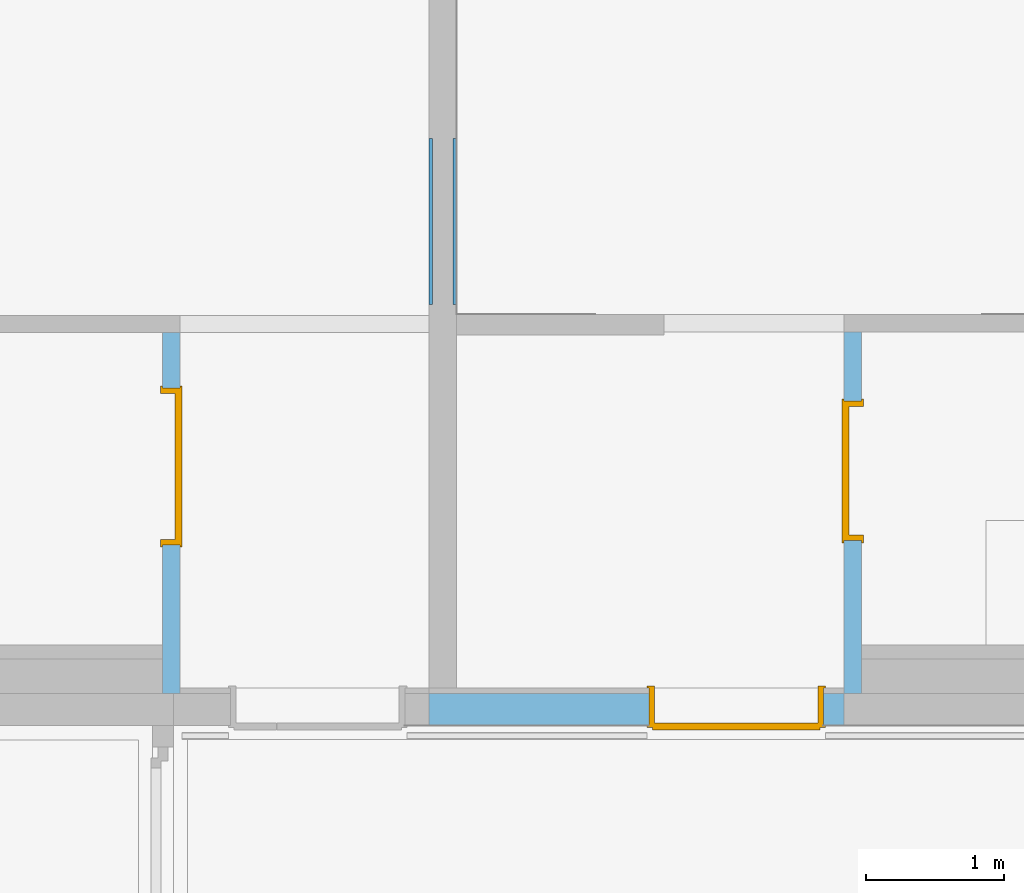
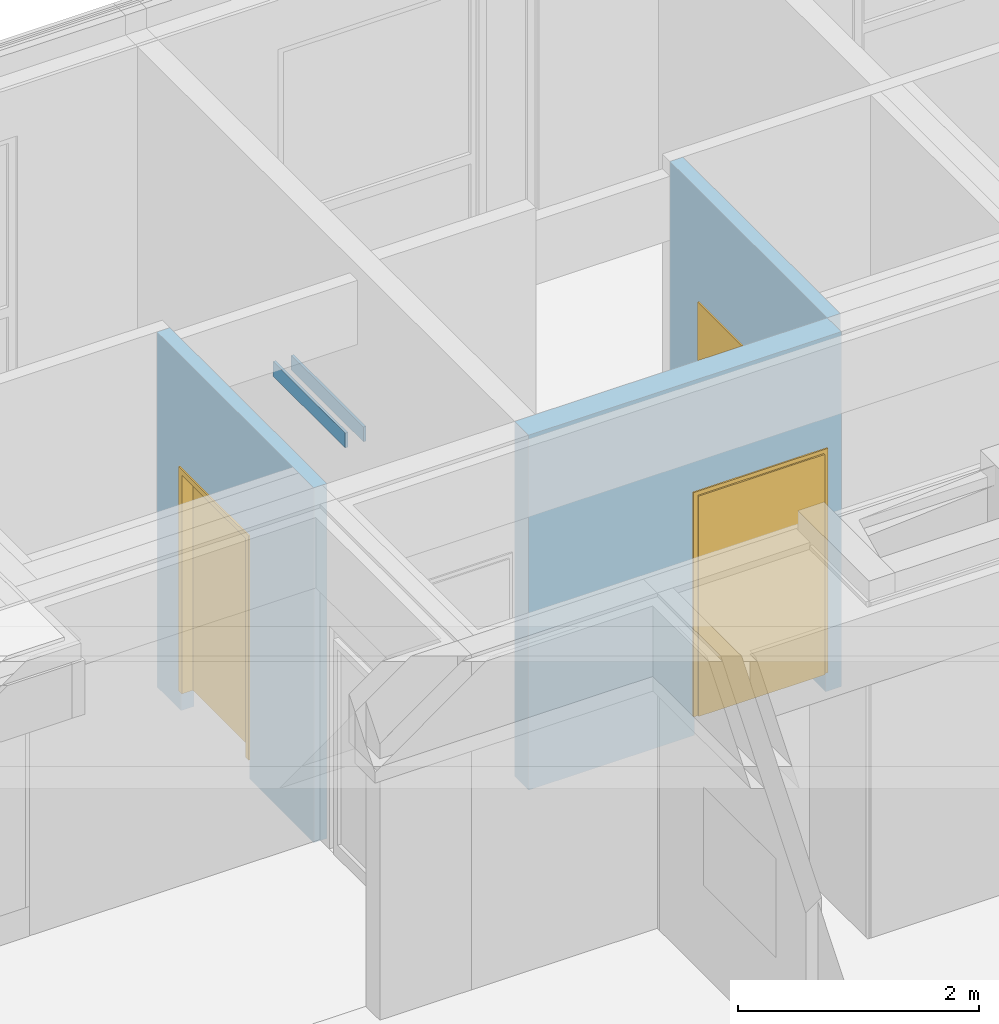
# One storey, part 146 of 207: 3 doors, 2 walls, 3 openings, plus 3 elements that do not belong to this part.
"""IFC4 building model written with IfcOpenShell, lengths in metres."""

from ifc_helpers import new_model, entity, si_unit, converted_unit, derived_unit, frame, frame_2d, origin, origin_with_axes, place, context, subcontext, project, spatial, polyline, rectangle, outline, extrude, faceted_brep, source, transform, mapped, material, type_object, element, fill, save


model = new_model("IFC4")

# Units and contexts
model_context = context("Model", 3, precision=1e-05, world=origin())
body_context = subcontext(model_context, "Body", "Model", "MODEL_VIEW")
ifc_project = project(units=[si_unit("LENGTHUNIT", "METRE"), si_unit("AREAUNIT", "SQUARE_METRE"), si_unit("VOLUMEUNIT", "CUBIC_METRE"), si_unit("MASSUNIT", "GRAM", prefix="KILO"), converted_unit("PLANEANGLEUNIT", "DEGREE", entity("IfcPlaneAngleMeasure", 0.0174532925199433), si_unit("PLANEANGLEUNIT", "RADIAN"), dimensions=[0, 0, 0, 0, 0, 0, 0]), derived_unit("THERMALTRANSMITTANCEUNIT", [(si_unit("POWERUNIT", "WATT"), 1), (si_unit("THERMODYNAMICTEMPERATUREUNIT", "KELVIN"), -1), (si_unit("LENGTHUNIT", "METRE"), -2)]), derived_unit("VOLUMETRICFLOWRATEUNIT", [(si_unit("LENGTHUNIT", "METRE"), 3), (converted_unit("TIMEUNIT", "hour", entity("IfcTimeMeasure", 3600.0), si_unit("TIMEUNIT", "SECOND"), dimensions=[0, 0, 1, 0, 0, 0, 0]), -1), (si_unit("LENGTHUNIT", "METRE"), -1)])], contexts=[model_context])

# Site, building, storey
site_placement = place(None, origin())
site = spatial("IfcSite", under=ifc_project, at=site_placement, Name="Psychiatrie Neubau Wunstorf", CompositionType="ELEMENT")
building_placement = place(site_placement, origin())
building = spatial("IfcBuilding", under=site, at=building_placement, Name="Neubau H2 Stationsgebäude", CompositionType="ELEMENT")
storey_placement = place(building_placement, frame((0.0, 0.0, -0.2)))
storey = spatial("IfcBuildingStorey", under=building, at=storey_placement, Name="H2 Ebene 0", CompositionType="ELEMENT", Elevation=-0.2)

# Walls
for number, where, name in (
    (1, (75.9, 28.1628000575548, 1.625), "WV 1.1"),
    (2, (76.075, 28.1628, 1.625), "WV 1.1"),
):
    element("IfcWall", number, at=place(storey_placement, frame(where)), inside=storey, Name=name, context=body_context, shape_type="Brep", body=[
        faceted_brep([(0.025, 1.2, 0.0), (0.0, 1.2, 0.0), (0.0, 0.0, 0.0), (0.025, 0.0, 0.0), (0.0, 1.2, 0.15), (0.025, 1.2, 0.15), (0.025, 0.0, 0.15), (0.0, 0.0, 0.15)], [[[0, 1, 2, 3]], [[4, 5, 6, 7]], [[1, 0, 5, 4]], [[2, 1, 4, 7]], [[3, 2, 7, 6]], [[0, 3, 6, 5]]], orient=[[False], [False], [False], [False], [False], [False]]),
    ])

# Wall, opening, door
ifc_material_1 = material(Name="WI-LB")
wall_1_placement = place(storey_placement, frame((73.975, 27.9575, 0.0), z_axis=(0.0, 0.0, 1.0), x_axis=(0.0, -1.0, 0.0)))
wall_1 = element("IfcWall", 3, at=wall_1_placement, inside=storey, material=ifc_material_1, context=body_context, shape_type="SweptSolid", body=[
    extrude(rectangle(XDim=2.60799999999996, YDim=0.125, at=frame_2d((1.30399999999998, 0.0625), x_axis=(1.0, 0.0))), origin_with_axes(), (0.0, 0.0, 1.0), 3.6),
])
opening_1_placement = place(wall_1_placement, frame((0.4, 0.0, 0.0), z_axis=(0.0, 1.0, 0.0), x_axis=(0.0, 0.0, 1.0)))
opening_1 = element("IfcOpeningElement", 4, at=opening_1_placement, cuts=wall_1, Name="Türöffnung", ObjectType="Opening", context=body_context, shape_type="SweptSolid", body=[
    extrude(outline(polyline([(2.46, 1.135), (2.46, 0.0), (0.0, 0.0), (0.0, 1.135), (2.46, 1.135)])), origin_with_axes(), (0.0, 0.0, 1.0), 0.125),
])
ifc_material_2 = material(Name="TI-1F-UZ-D-N")
door_type_1 = type_object("IfcDoorType", Name="SMT", OperationType="SINGLE_SWING_RIGHT", ParameterTakesPrecedence=False, PredefinedType="DOOR")
shared_shape_1 = source(origin_with_axes(), body_context, "Body", "Brep", [
    faceted_brep([(-0.0499999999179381, 0.0125000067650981, 0.0), (0.0, 0.0125000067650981, 0.0), (0.0, 0.112499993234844, 0.0), (-0.0499999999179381, 0.112499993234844, 0.0), (-0.0499999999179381, 0.112499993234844, 3.6), (0.0, 0.112499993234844, 3.6), (0.0, 0.0125000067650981, 3.6), (-0.0499999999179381, 0.0125000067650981, 3.6)], [[[0, 1, 2, 3]], [[4, 5, 6, 7]], [[3, 4, 7, 0]], [[2, 5, 4, 3]], [[1, 6, 5, 2]], [[0, 7, 6, 1]]], orient=[[False], [False], [False], [False], [False], [False]]),
    faceted_brep([(1.13500000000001, 0.0125000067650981, 0.0), (1.18499999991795, 0.0125000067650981, 0.0), (1.18499999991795, 0.112499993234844, 0.0), (1.13500000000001, 0.112499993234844, 0.0), (1.13500000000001, 0.112499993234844, 3.6), (1.18499999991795, 0.112499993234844, 3.6), (1.18499999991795, 0.0125000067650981, 3.6), (1.13500000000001, 0.0125000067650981, 3.6)], [[[0, 1, 2, 3]], [[4, 5, 6, 7]], [[3, 4, 7, 0]], [[2, 5, 4, 3]], [[1, 6, 5, 2]], [[0, 7, 6, 1]]], orient=[[False], [False], [False], [False], [False], [False]]),
    faceted_brep([(0.0, 0.0125000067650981, 2.46), (1.13500000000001, 0.0125000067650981, 2.46), (1.13500000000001, 0.112499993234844, 2.46), (0.0, 0.112499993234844, 2.46), (0.0, 0.112499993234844, 2.51), (1.13500000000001, 0.112499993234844, 2.51), (1.13500000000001, 0.0125000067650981, 2.51), (0.0, 0.0125000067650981, 2.51)], [[[0, 1, 2, 3]], [[4, 5, 6, 7]], [[3, 4, 7, 0]], [[2, 5, 4, 3]], [[1, 6, 5, 2]], [[0, 7, 6, 1]]], orient=[[False], [False], [False], [False], [False], [False]]),
])
shared_shape_2 = source(origin_with_axes(), body_context, "Body", "Brep", [
    faceted_brep([(1.13500000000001, -0.0150000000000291, 2.46), (1.13500000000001, -0.0150000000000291, 0.2), (1.09500000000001, -0.0150000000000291, 0.2), (1.09500000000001, -0.0150000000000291, 2.46), (1.13500000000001, 0.139999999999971, 0.2), (1.13500000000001, 0.139999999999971, 2.46), (1.09500000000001, 0.139999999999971, 2.46), (1.09500000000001, 0.139999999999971, 0.2)], [[[0, 1, 2, 3]], [[4, 5, 6, 7]], [[1, 0, 5, 4]], [[2, 1, 4, 7]], [[3, 2, 7, 6]], [[0, 3, 6, 5]]], orient=[[False], [False], [False], [False], [False], [False]]),
    faceted_brep([(1.13500000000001, -0.0150000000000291, 2.475), (1.15000000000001, -0.0150000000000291, 2.475), (1.15000000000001, -0.0150000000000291, 0.2), (1.13500000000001, -0.0150000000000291, 0.2), (1.13500000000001, 0.0, 0.2), (1.15000000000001, 0.0, 0.2), (1.15000000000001, 0.0, 2.475), (1.13500000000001, 0.0, 2.475)], [[[0, 1, 2, 3]], [[4, 5, 6, 7]], [[3, 4, 7, 0]], [[2, 5, 4, 3]], [[1, 6, 5, 2]], [[0, 7, 6, 1]]], orient=[[False], [False], [False], [False], [False], [False]]),
    faceted_brep([(1.13500000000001, 0.124999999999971, 2.475), (1.15000000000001, 0.124999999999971, 2.475), (1.15000000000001, 0.124999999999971, 0.2), (1.13500000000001, 0.124999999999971, 0.2), (1.13500000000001, 0.139999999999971, 0.2), (1.15000000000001, 0.139999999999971, 0.2), (1.15000000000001, 0.139999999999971, 2.475), (1.13500000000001, 0.139999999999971, 2.475)], [[[0, 1, 2, 3]], [[4, 5, 6, 7]], [[3, 4, 7, 0]], [[2, 5, 4, 3]], [[1, 6, 5, 2]], [[0, 7, 6, 1]]], orient=[[False], [False], [False], [False], [False], [False]]),
    faceted_brep([(0.0400000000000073, -0.0150000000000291, 2.46), (0.0400000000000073, -0.0150000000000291, 0.2), (0.0, -0.0150000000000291, 0.2), (0.0, -0.0150000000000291, 2.46), (0.0400000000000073, 0.139999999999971, 0.2), (0.0400000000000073, 0.139999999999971, 2.46), (0.0, 0.139999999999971, 2.46), (0.0, 0.139999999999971, 0.2)], [[[0, 1, 2, 3]], [[4, 5, 6, 7]], [[1, 0, 5, 4]], [[2, 1, 4, 7]], [[3, 2, 7, 6]], [[0, 3, 6, 5]]], orient=[[False], [False], [False], [False], [False], [False]]),
    faceted_brep([(0.0, -0.0150000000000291, 2.475), (0.0, -0.0150000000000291, 0.2), (-0.0149999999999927, -0.0150000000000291, 0.2), (-0.0149999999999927, -0.0150000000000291, 2.475), (0.0, 0.0, 0.2), (0.0, 0.0, 2.475), (-0.0149999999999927, 0.0, 2.475), (-0.0149999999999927, 0.0, 0.2)], [[[0, 1, 2, 3]], [[4, 5, 6, 7]], [[1, 0, 5, 4]], [[2, 1, 4, 7]], [[3, 2, 7, 6]], [[0, 3, 6, 5]]], orient=[[False], [False], [False], [False], [False], [False]]),
    faceted_brep([(0.0, 0.124999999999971, 2.475), (0.0, 0.124999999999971, 0.2), (-0.0149999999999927, 0.124999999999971, 0.2), (-0.0149999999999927, 0.124999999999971, 2.475), (0.0, 0.139999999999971, 0.2), (0.0, 0.139999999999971, 2.475), (-0.0149999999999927, 0.139999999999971, 2.475), (-0.0149999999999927, 0.139999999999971, 0.2)], [[[0, 1, 2, 3]], [[4, 5, 6, 7]], [[1, 0, 5, 4]], [[2, 1, 4, 7]], [[3, 2, 7, 6]], [[0, 3, 6, 5]]], orient=[[False], [False], [False], [False], [False], [False]]),
    faceted_brep([(1.09500000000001, -0.0150000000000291, 2.46), (1.09500000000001, -0.0150000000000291, 2.42), (0.0400000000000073, -0.0150000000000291, 2.42), (0.0400000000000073, -0.0150000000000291, 2.46), (1.09500000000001, 0.139999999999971, 2.42), (1.09500000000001, 0.139999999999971, 2.46), (0.0400000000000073, 0.139999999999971, 2.46), (0.0400000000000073, 0.139999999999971, 2.42)], [[[0, 1, 2, 3]], [[4, 5, 6, 7]], [[1, 0, 5, 4]], [[2, 1, 4, 7]], [[3, 2, 7, 6]], [[0, 3, 6, 5]]], orient=[[False], [False], [False], [False], [False], [False]]),
    faceted_brep([(1.13500000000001, -0.0150000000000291, 2.475), (1.13500000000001, -0.0150000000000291, 2.46), (0.0, -0.0150000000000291, 2.46), (0.0, -0.0150000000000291, 2.475), (1.13500000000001, 0.0, 2.46), (1.13500000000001, 0.0, 2.475), (0.0, 0.0, 2.475), (0.0, 0.0, 2.46)], [[[0, 1, 2, 3]], [[4, 5, 6, 7]], [[1, 0, 5, 4]], [[2, 1, 4, 7]], [[3, 2, 7, 6]], [[0, 3, 6, 5]]], orient=[[False], [False], [False], [False], [False], [False]]),
    faceted_brep([(1.13500000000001, 0.124999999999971, 2.475), (1.13500000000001, 0.124999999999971, 2.46), (0.0, 0.124999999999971, 2.46), (0.0, 0.124999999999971, 2.475), (1.13500000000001, 0.139999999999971, 2.46), (1.13500000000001, 0.139999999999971, 2.475), (0.0, 0.139999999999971, 2.475), (0.0, 0.139999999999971, 2.46)], [[[0, 1, 2, 3]], [[4, 5, 6, 7]], [[1, 0, 5, 4]], [[2, 1, 4, 7]], [[3, 2, 7, 6]], [[0, 3, 6, 5]]], orient=[[False], [False], [False], [False], [False], [False]]),
    faceted_brep([(1.11000000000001, 0.0909999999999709, 2.435), (1.11000000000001, 0.0909999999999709, 0.2), (0.0250000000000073, 0.0909999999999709, 0.2), (0.0250000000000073, 0.0909999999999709, 2.435), (1.11000000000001, 0.140999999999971, 0.2), (1.11000000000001, 0.140999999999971, 2.435), (0.0250000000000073, 0.140999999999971, 2.435), (0.0250000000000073, 0.140999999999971, 0.2)], [[[0, 1, 2, 3]], [[4, 5, 6, 7]], [[1, 0, 5, 4]], [[2, 1, 4, 7]], [[3, 2, 7, 6]], [[0, 3, 6, 5]]], orient=[[False], [False], [False], [False], [False], [False]]),
])
door_1_placement = place(opening_1_placement, frame((0.0, 0.0, 0.0), z_axis=(1.0, 0.0, 0.0), x_axis=(0.0, 1.0, 0.0)))
door_1 = element("IfcDoor", 5, at=door_1_placement, inside=storey, type_object=door_type_1, material=ifc_material_2, Name="SMT", OverallHeight=2.46, OverallWidth=1.135, context=body_context, shape_type="MappedRepresentation", body=[
    mapped(shared_shape_1, transform((0.0, 0.0, 0.0), x_axis=(1.0, 0.0, 0.0), y_axis=(0.0, 1.0, 0.0), z_axis=(0.0, 0.0, 1.0), scale=1.0)),
    mapped(shared_shape_2, transform((0.0, 0.0, 0.0), x_axis=(1.0, 0.0, 0.0), y_axis=(0.0, 1.0, 0.0), z_axis=(0.0, 0.0, 1.0), scale=1.0)),
])
fill(opening_1, door_1)

ifc_material_3 = material(Name="WI-LB")
wall_2_placement = place(storey_placement, frame((78.9, 27.9645, 0.0), z_axis=(0.0, 0.0, 1.0), x_axis=(0.0, -1.0, 0.0)))
wall_2 = element("IfcWall", 6, at=wall_2_placement, inside=storey, material=ifc_material_3, context=body_context, shape_type="SweptSolid", body=[
    extrude(rectangle(XDim=2.615, YDim=0.125, at=frame_2d((1.3075, 0.0625), x_axis=(1.0, 0.0))), origin_with_axes(), (0.0, 0.0, 1.0), 3.6),
])
opening_2_placement = place(wall_2_placement, frame((1.51, 0.125, 0.0), z_axis=(0.0, -1.0, 0.0), x_axis=(0.0, 0.0, 1.0)))
opening_2 = element("IfcOpeningElement", 7, at=opening_2_placement, cuts=wall_2, Name="Türöffnung", ObjectType="Opening", context=body_context, shape_type="SweptSolid", body=[
    extrude(outline(polyline([(2.46, 1.01), (2.46, 0.0), (0.0, 0.0), (0.0, 1.01), (2.46, 1.01)])), origin_with_axes(), (0.0, 0.0, 1.0), 0.125),
])
ifc_material_4 = material(Name="TI-1F-UZ-D-N")
door_type_2 = type_object("IfcDoorType", Name="SMT", OperationType="SINGLE_SWING_RIGHT", ParameterTakesPrecedence=False, PredefinedType="DOOR")
shared_shape_3 = source(origin_with_axes(), body_context, "Body", "Brep", [
    faceted_brep([(-0.0400000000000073, 0.0125000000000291, 0.0), (0.0, 0.0125000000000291, 0.0), (0.0, 0.112500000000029, 0.0), (-0.0400000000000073, 0.112500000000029, 0.0), (-0.0400000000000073, 0.112500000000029, 3.6), (0.0, 0.112500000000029, 3.6), (0.0, 0.0125000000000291, 3.6), (-0.0400000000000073, 0.0125000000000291, 3.6)], [[[0, 1, 2, 3]], [[4, 5, 6, 7]], [[3, 4, 7, 0]], [[2, 5, 4, 3]], [[1, 6, 5, 2]], [[0, 7, 6, 1]]], orient=[[False], [False], [False], [False], [False], [False]]),
    faceted_brep([(1.00999999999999, 0.0125000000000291, 0.0), (1.04999999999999, 0.0125000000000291, 0.0), (1.04999999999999, 0.112500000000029, 0.0), (1.00999999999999, 0.112500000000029, 0.0), (1.00999999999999, 0.112500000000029, 3.6), (1.04999999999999, 0.112500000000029, 3.6), (1.04999999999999, 0.0125000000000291, 3.6), (1.00999999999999, 0.0125000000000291, 3.6)], [[[0, 1, 2, 3]], [[4, 5, 6, 7]], [[3, 4, 7, 0]], [[2, 5, 4, 3]], [[1, 6, 5, 2]], [[0, 7, 6, 1]]], orient=[[False], [False], [False], [False], [False], [False]]),
    faceted_brep([(0.0, 0.0125000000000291, 2.46), (1.00999999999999, 0.0125000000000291, 2.46), (1.00999999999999, 0.112500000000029, 2.46), (0.0, 0.112500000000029, 2.46), (0.0, 0.112500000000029, 2.5), (1.00999999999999, 0.112500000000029, 2.5), (1.00999999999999, 0.0125000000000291, 2.5), (0.0, 0.0125000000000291, 2.5)], [[[0, 1, 2, 3]], [[4, 5, 6, 7]], [[3, 4, 7, 0]], [[2, 5, 4, 3]], [[1, 6, 5, 2]], [[0, 7, 6, 1]]], orient=[[False], [False], [False], [False], [False], [False]]),
])
shared_shape_4 = source(origin_with_axes(), body_context, "Body", "Brep", [
    faceted_brep([(0.0, -0.0149999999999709, 2.46), (0.0399999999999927, -0.0149999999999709, 2.46), (0.0399999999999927, -0.0149999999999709, 0.2), (0.0, -0.0149999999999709, 0.2), (0.0, 0.140000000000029, 0.2), (0.0399999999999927, 0.140000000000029, 0.2), (0.0399999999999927, 0.140000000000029, 2.46), (0.0, 0.140000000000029, 2.46)], [[[0, 1, 2, 3]], [[4, 5, 6, 7]], [[3, 4, 7, 0]], [[2, 5, 4, 3]], [[1, 6, 5, 2]], [[0, 7, 6, 1]]], orient=[[False], [False], [False], [False], [False], [False]]),
    faceted_brep([(0.0, -0.0149999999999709, 2.475), (0.0, -0.0149999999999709, 0.2), (-0.0150000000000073, -0.0149999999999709, 0.2), (-0.0150000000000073, -0.0149999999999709, 2.475), (0.0, 0.0, 0.2), (0.0, 0.0, 2.475), (-0.0150000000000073, 0.0, 2.475), (-0.0150000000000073, 0.0, 0.2)], [[[0, 1, 2, 3]], [[4, 5, 6, 7]], [[1, 0, 5, 4]], [[2, 1, 4, 7]], [[3, 2, 7, 6]], [[0, 3, 6, 5]]], orient=[[False], [False], [False], [False], [False], [False]]),
    faceted_brep([(0.0, 0.125000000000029, 2.475), (0.0, 0.125000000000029, 0.2), (-0.0150000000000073, 0.125000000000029, 0.2), (-0.0150000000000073, 0.125000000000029, 2.475), (0.0, 0.140000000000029, 0.2), (0.0, 0.140000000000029, 2.475), (-0.0150000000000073, 0.140000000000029, 2.475), (-0.0150000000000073, 0.140000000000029, 0.2)], [[[0, 1, 2, 3]], [[4, 5, 6, 7]], [[1, 0, 5, 4]], [[2, 1, 4, 7]], [[3, 2, 7, 6]], [[0, 3, 6, 5]]], orient=[[False], [False], [False], [False], [False], [False]]),
    faceted_brep([(0.969999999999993, -0.0149999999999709, 2.46), (1.00999999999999, -0.0149999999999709, 2.46), (1.00999999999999, -0.0149999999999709, 0.2), (0.969999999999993, -0.0149999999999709, 0.2), (0.969999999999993, 0.140000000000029, 0.2), (1.00999999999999, 0.140000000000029, 0.2), (1.00999999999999, 0.140000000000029, 2.46), (0.969999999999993, 0.140000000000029, 2.46)], [[[0, 1, 2, 3]], [[4, 5, 6, 7]], [[3, 4, 7, 0]], [[2, 5, 4, 3]], [[1, 6, 5, 2]], [[0, 7, 6, 1]]], orient=[[False], [False], [False], [False], [False], [False]]),
    faceted_brep([(1.00999999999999, -0.0149999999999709, 2.475), (1.02499999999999, -0.0149999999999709, 2.475), (1.02499999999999, -0.0149999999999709, 0.2), (1.00999999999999, -0.0149999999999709, 0.2), (1.00999999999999, 0.0, 0.2), (1.02499999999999, 0.0, 0.2), (1.02499999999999, 0.0, 2.475), (1.00999999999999, 0.0, 2.475)], [[[0, 1, 2, 3]], [[4, 5, 6, 7]], [[3, 4, 7, 0]], [[2, 5, 4, 3]], [[1, 6, 5, 2]], [[0, 7, 6, 1]]], orient=[[False], [False], [False], [False], [False], [False]]),
    faceted_brep([(1.00999999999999, 0.125000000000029, 2.475), (1.02499999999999, 0.125000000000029, 2.475), (1.02499999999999, 0.125000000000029, 0.2), (1.00999999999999, 0.125000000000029, 0.2), (1.00999999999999, 0.140000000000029, 0.2), (1.02499999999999, 0.140000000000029, 0.2), (1.02499999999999, 0.140000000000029, 2.475), (1.00999999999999, 0.140000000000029, 2.475)], [[[0, 1, 2, 3]], [[4, 5, 6, 7]], [[3, 4, 7, 0]], [[2, 5, 4, 3]], [[1, 6, 5, 2]], [[0, 7, 6, 1]]], orient=[[False], [False], [False], [False], [False], [False]]),
    faceted_brep([(0.0399999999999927, -0.0149999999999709, 2.46), (0.969999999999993, -0.0149999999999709, 2.46), (0.969999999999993, -0.0149999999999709, 2.42), (0.0399999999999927, -0.0149999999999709, 2.42), (0.0399999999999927, 0.140000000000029, 2.42), (0.969999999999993, 0.140000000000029, 2.42), (0.969999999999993, 0.140000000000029, 2.46), (0.0399999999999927, 0.140000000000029, 2.46)], [[[0, 1, 2, 3]], [[4, 5, 6, 7]], [[3, 4, 7, 0]], [[2, 5, 4, 3]], [[1, 6, 5, 2]], [[0, 7, 6, 1]]], orient=[[False], [False], [False], [False], [False], [False]]),
    faceted_brep([(0.0, -0.0149999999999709, 2.475), (1.00999999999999, -0.0149999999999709, 2.475), (1.00999999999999, -0.0149999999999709, 2.46), (0.0, -0.0149999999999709, 2.46), (0.0, 0.0, 2.46), (1.00999999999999, 0.0, 2.46), (1.00999999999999, 0.0, 2.475), (0.0, 0.0, 2.475)], [[[0, 1, 2, 3]], [[4, 5, 6, 7]], [[3, 4, 7, 0]], [[2, 5, 4, 3]], [[1, 6, 5, 2]], [[0, 7, 6, 1]]], orient=[[False], [False], [False], [False], [False], [False]]),
    faceted_brep([(0.0, 0.125000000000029, 2.475), (1.00999999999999, 0.125000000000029, 2.475), (1.00999999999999, 0.125000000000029, 2.46), (0.0, 0.125000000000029, 2.46), (0.0, 0.140000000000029, 2.46), (1.00999999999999, 0.140000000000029, 2.46), (1.00999999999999, 0.140000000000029, 2.475), (0.0, 0.140000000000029, 2.475)], [[[0, 1, 2, 3]], [[4, 5, 6, 7]], [[3, 4, 7, 0]], [[2, 5, 4, 3]], [[1, 6, 5, 2]], [[0, 7, 6, 1]]], orient=[[False], [False], [False], [False], [False], [False]]),
    faceted_brep([(0.0249999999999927, 0.0910000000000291, 2.435), (0.984999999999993, 0.0910000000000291, 2.435), (0.984999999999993, 0.0910000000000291, 0.2), (0.0249999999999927, 0.0910000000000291, 0.2), (0.0249999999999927, 0.141000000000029, 0.2), (0.984999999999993, 0.141000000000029, 0.2), (0.984999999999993, 0.141000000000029, 2.435), (0.0249999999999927, 0.141000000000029, 2.435)], [[[0, 1, 2, 3]], [[4, 5, 6, 7]], [[3, 4, 7, 0]], [[2, 5, 4, 3]], [[1, 6, 5, 2]], [[0, 7, 6, 1]]], orient=[[False], [False], [False], [False], [False], [False]]),
])
door_2_placement = place(opening_2_placement, frame((0.0, 0.0, 0.0), z_axis=(1.0, 0.0, 0.0), x_axis=(0.0, 1.0, 0.0)))
door_2 = element("IfcDoor", 8, at=door_2_placement, inside=storey, type_object=door_type_2, material=ifc_material_4, Name="SMT", OverallHeight=2.46, OverallWidth=1.01, context=body_context, shape_type="MappedRepresentation", body=[
    mapped(shared_shape_3, transform((0.0, 0.0, 0.0), x_axis=(1.0, 0.0, 0.0), y_axis=(0.0, 1.0, 0.0), z_axis=(0.0, 0.0, 1.0), scale=1.0)),
    mapped(shared_shape_4, transform((0.0, 0.0, 0.0), x_axis=(1.0, 0.0, 0.0), y_axis=(0.0, 1.0, 0.0), z_axis=(0.0, 0.0, 1.0), scale=1.0)),
])
fill(opening_2, door_2)

ifc_material_5 = material(Name="WI-HW 60")
wall_3_placement = place(storey_placement, frame((75.9, 25.1175, 0.0)))
wall_3 = element("IfcWall", 9, at=wall_3_placement, inside=storey, material=ifc_material_5, context=body_context, shape_type="SweptSolid", body=[
    extrude(rectangle(XDim=3.0, YDim=0.232, at=frame_2d((1.5, 0.116), x_axis=(1.0, 0.0))), origin_with_axes(), (0.0, 0.0, 1.0), 3.6),
])
opening_3_placement = place(wall_3_placement, frame((1.59, 0.0, 0.0), z_axis=(0.0, 1.0, 0.0), x_axis=(0.0, 0.0, 1.0)))
opening_3 = element("IfcOpeningElement", 10, at=opening_3_placement, cuts=wall_3, Name="Türöffnung", ObjectType="Opening", context=body_context, shape_type="SweptSolid", body=[
    extrude(outline(polyline([(2.46, 1.26), (2.46, 0.0), (0.0, 0.0), (0.0, 1.26), (2.46, 1.26)])), origin_with_axes(), (0.0, 0.0, 1.0), 0.232),
])
ifc_material_6 = material(Name="TI-2F-UZ-D")
door_type_3 = type_object("IfcDoorType", Name="SMT", OperationType="DOUBLE_DOOR_SINGLE_SWING", ParameterTakesPrecedence=False, PredefinedType="DOOR")
shared_shape_5 = source(origin_with_axes(), body_context, "Body", "Brep", [
    faceted_brep([(1.26, -0.015, 2.46), (1.26, -0.015, 0.2), (1.22, -0.015, 0.2), (1.22, -0.015, 2.46), (1.26, 0.287, 0.2), (1.26, 0.287, 2.46), (1.22, 0.287, 2.46), (1.22, 0.287, 0.2)], [[[0, 1, 2, 3]], [[4, 5, 6, 7]], [[1, 0, 5, 4]], [[2, 1, 4, 7]], [[3, 2, 7, 6]], [[0, 3, 6, 5]]], orient=[[False], [False], [False], [False], [False], [False]]),
    faceted_brep([(1.26, -0.015, 2.475), (1.275, -0.015, 2.475), (1.275, -0.015, 0.2), (1.26, -0.015, 0.2), (1.26, 0.0, 0.2), (1.275, 0.0, 0.2), (1.275, 0.0, 2.475), (1.26, 0.0, 2.475)], [[[0, 1, 2, 3]], [[4, 5, 6, 7]], [[3, 4, 7, 0]], [[2, 5, 4, 3]], [[1, 6, 5, 2]], [[0, 7, 6, 1]]], orient=[[False], [False], [False], [False], [False], [False]]),
    faceted_brep([(1.26, 0.272, 2.475), (1.275, 0.272, 2.475), (1.275, 0.272, 0.2), (1.26, 0.272, 0.2), (1.26, 0.287, 0.2), (1.275, 0.287, 0.2), (1.275, 0.287, 2.475), (1.26, 0.287, 2.475)], [[[0, 1, 2, 3]], [[4, 5, 6, 7]], [[3, 4, 7, 0]], [[2, 5, 4, 3]], [[1, 6, 5, 2]], [[0, 7, 6, 1]]], orient=[[False], [False], [False], [False], [False], [False]]),
    faceted_brep([(0.04, -0.015, 2.46), (0.04, -0.015, 0.2), (0.0, -0.015, 0.2), (0.0, -0.015, 2.46), (0.04, 0.287, 0.2), (0.04, 0.287, 2.46), (0.0, 0.287, 2.46), (0.0, 0.287, 0.2)], [[[0, 1, 2, 3]], [[4, 5, 6, 7]], [[1, 0, 5, 4]], [[2, 1, 4, 7]], [[3, 2, 7, 6]], [[0, 3, 6, 5]]], orient=[[False], [False], [False], [False], [False], [False]]),
    faceted_brep([(0.0, -0.015, 2.475), (0.0, -0.015, 0.2), (-0.015, -0.015, 0.2), (-0.015, -0.015, 2.475), (0.0, 0.0, 0.2), (0.0, 0.0, 2.475), (-0.015, 0.0, 2.475), (-0.015, 0.0, 0.2)], [[[0, 1, 2, 3]], [[4, 5, 6, 7]], [[1, 0, 5, 4]], [[2, 1, 4, 7]], [[3, 2, 7, 6]], [[0, 3, 6, 5]]], orient=[[False], [False], [False], [False], [False], [False]]),
    faceted_brep([(0.0, 0.272, 2.475), (0.0, 0.272, 0.2), (-0.015, 0.272, 0.2), (-0.015, 0.272, 2.475), (0.0, 0.287, 0.2), (0.0, 0.287, 2.475), (-0.015, 0.287, 2.475), (-0.015, 0.287, 0.2)], [[[0, 1, 2, 3]], [[4, 5, 6, 7]], [[1, 0, 5, 4]], [[2, 1, 4, 7]], [[3, 2, 7, 6]], [[0, 3, 6, 5]]], orient=[[False], [False], [False], [False], [False], [False]]),
    faceted_brep([(1.22, -0.015, 2.46), (1.22, -0.015, 2.42), (0.04, -0.015, 2.42), (0.04, -0.015, 2.46), (1.22, 0.287, 2.42), (1.22, 0.287, 2.46), (0.04, 0.287, 2.46), (0.04, 0.287, 2.42)], [[[0, 1, 2, 3]], [[4, 5, 6, 7]], [[1, 0, 5, 4]], [[2, 1, 4, 7]], [[3, 2, 7, 6]], [[0, 3, 6, 5]]], orient=[[False], [False], [False], [False], [False], [False]]),
    faceted_brep([(1.26, -0.015, 2.475), (1.26, -0.015, 2.46), (0.0, -0.015, 2.46), (0.0, -0.015, 2.475), (1.26, 0.0, 2.46), (1.26, 0.0, 2.475), (0.0, 0.0, 2.475), (0.0, 0.0, 2.46)], [[[0, 1, 2, 3]], [[4, 5, 6, 7]], [[1, 0, 5, 4]], [[2, 1, 4, 7]], [[3, 2, 7, 6]], [[0, 3, 6, 5]]], orient=[[False], [False], [False], [False], [False], [False]]),
    faceted_brep([(1.26, 0.272, 2.475), (1.26, 0.272, 2.46), (0.0, 0.272, 2.46), (0.0, 0.272, 2.475), (1.26, 0.287, 2.46), (1.26, 0.287, 2.475), (0.0, 0.287, 2.475), (0.0, 0.287, 2.46)], [[[0, 1, 2, 3]], [[4, 5, 6, 7]], [[1, 0, 5, 4]], [[2, 1, 4, 7]], [[3, 2, 7, 6]], [[0, 3, 6, 5]]], orient=[[False], [False], [False], [False], [False], [False]]),
    faceted_brep([(1.235, 0.252, 2.435), (1.235, 0.252, 0.2), (0.335, 0.252, 0.2), (0.335, 0.252, 2.435), (1.235, 0.302, 0.2), (1.235, 0.302, 2.435), (0.335, 0.302, 2.435), (0.335, 0.302, 0.2)], [[[0, 1, 2, 3]], [[4, 5, 6, 7]], [[1, 0, 5, 4]], [[2, 1, 4, 7]], [[3, 2, 7, 6]], [[0, 3, 6, 5]]], orient=[[False], [False], [False], [False], [False], [False]]),
    faceted_brep([(0.334, 0.252, 2.435), (0.334, 0.252, 0.2), (0.025, 0.252, 0.2), (0.025, 0.252, 2.435), (0.334, 0.302, 0.2), (0.334, 0.302, 2.435), (0.025, 0.302, 2.435), (0.025, 0.302, 0.2)], [[[0, 1, 2, 3]], [[4, 5, 6, 7]], [[1, 0, 5, 4]], [[2, 1, 4, 7]], [[3, 2, 7, 6]], [[0, 3, 6, 5]]], orient=[[False], [False], [False], [False], [False], [False]]),
])
door_3_placement = place(opening_3_placement, frame((0.0, 1.26, 0.272), z_axis=(1.0, 0.0, 0.0), x_axis=(0.0, -1.0, 0.0)))
door_3 = element("IfcDoor", 11, at=door_3_placement, inside=storey, type_object=door_type_3, material=ifc_material_6, Name="SMT", OverallHeight=2.46, OverallWidth=1.26, context=body_context, shape_type="MappedRepresentation", body=[
    mapped(shared_shape_5, transform((0.0, 0.0, 0.0), x_axis=(1.0, 0.0, 0.0), y_axis=(0.0, 1.0, 0.0), z_axis=(0.0, 0.0, 1.0), scale=1.0)),
])
fill(opening_3, door_3)

save(model, "model.ifc")
